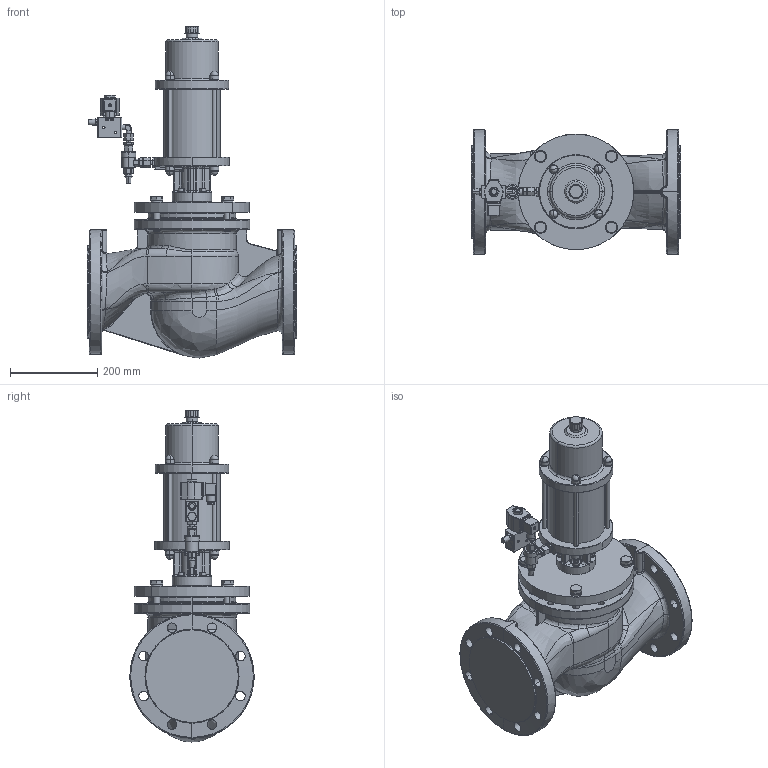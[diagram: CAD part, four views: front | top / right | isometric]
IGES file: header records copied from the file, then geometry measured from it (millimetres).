
Global section: file name: No Iges File Name specified; native system: AutoDesk Inventor R12.0; preprocessor: AutoDesk Inventor Iges Exporter R12.0; date: 20100329.130108; units: millimetre
Bounding box: 480 x 285 x 761.05 mm (x, y, z)
Volume: 25161872.8 mm3; surface area: 1083161.5 mm2
Topology: 2 solids, 2 shells, 1469 faces, 3845 edges, 2347 vertices
Faces by surface type: plane 492, bspline 342, cylinder 295, cone 141, revolution 106, torus 60, sphere 33
